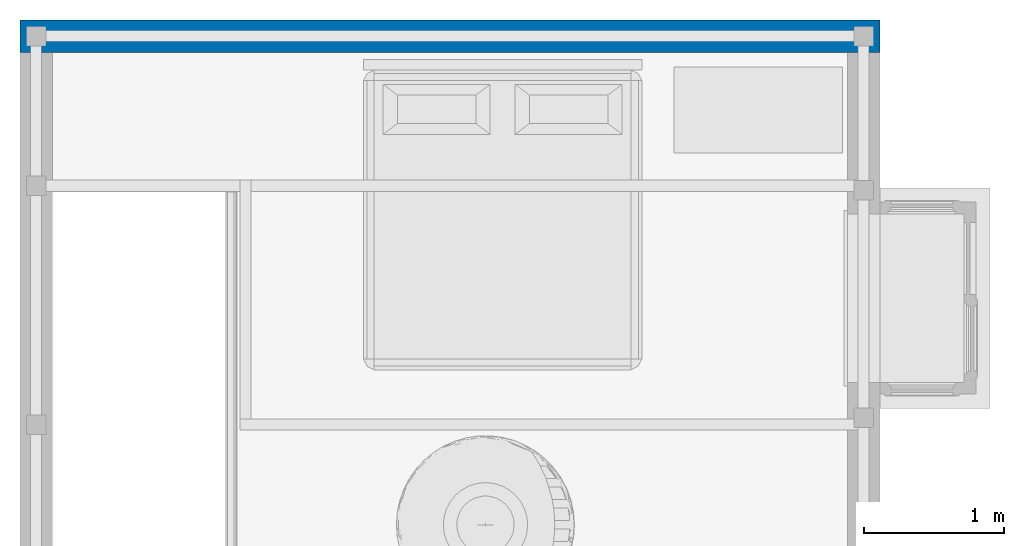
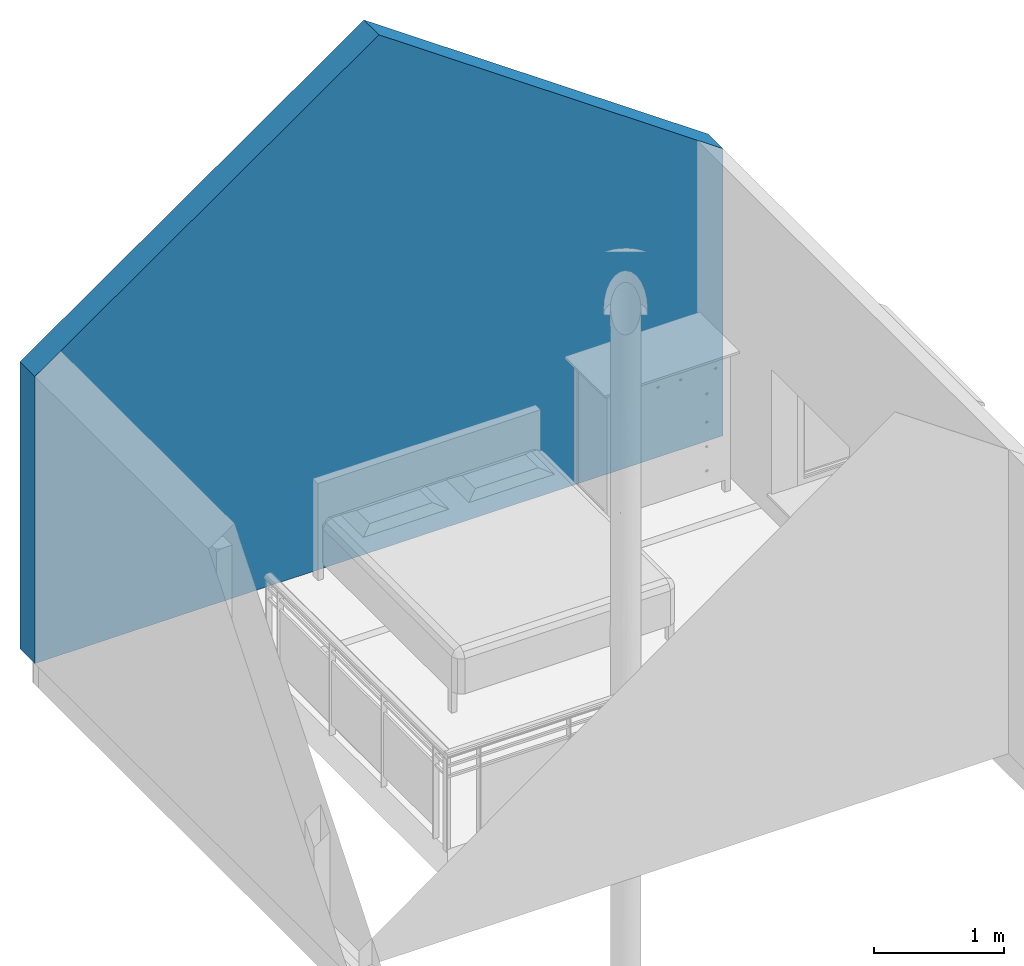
# One storey, part 2 of 5: 1 wall.
"""IFC2X3 building model written with IfcOpenShell, lengths in metres."""

from ifc_helpers import new_model, entity, si_unit, converted_unit, derived_unit, direction, frame, frame_2d, origin, place, context, subcontext, project, spatial, polyline, rectangle, extrude, clip, bounded_halfspace, material, layer, layer_set, layer_usage, type_object, element, save


model = new_model("IFC2X3")

# Units and contexts
model_context = context("Model", 3, precision=1e-05, world=origin(), true_north=direction((6.123233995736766e-17, 1.0)))
body_context = subcontext(model_context, "Body", "Model", "MODEL_VIEW")
ifc_project = project(units=[si_unit("LENGTHUNIT", "METRE"), si_unit("AREAUNIT", "SQUARE_METRE"), converted_unit("PLANEANGLEUNIT", "DEGREE", entity("IfcPlaneAngleMeasure", 0.017453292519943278), si_unit("PLANEANGLEUNIT", "RADIAN"), dimensions=[0, 0, 0, 0, 0, 0, 0]), derived_unit("THERMALTRANSMITTANCEUNIT", [(si_unit("MASSUNIT", "GRAM", prefix="KILO"), 1), (si_unit("THERMODYNAMICTEMPERATUREUNIT", "KELVIN"), -1), (si_unit("TIMEUNIT", "SECOND"), -3)])], contexts=[model_context])

# Site, building, storey
site_placement = place(None, origin())
site = spatial("IfcSite", under=ifc_project, at=site_placement, Name="Default", CompositionType="ELEMENT")
building_placement = place(site_placement, origin())
building = spatial("IfcBuilding", under=site, at=building_placement, CompositionType="ELEMENT")
storey_placement = place(building_placement, frame((0.0, 0.0, 3.0999999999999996)))
storey = spatial("IfcBuildingStorey", under=building, at=storey_placement, Name="1 - First Floor", CompositionType="ELEMENT", Elevation=3.0999999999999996)

# Wall
ifc_material_1 = material(Name="gypsum plaster")
ifc_layer_1 = layer(ifc_material_1, 0.025)
ifc_material_2 = material(Name="wood fiber")
ifc_layer_2 = layer(ifc_material_2, 0.02)
ifc_material_3 = material(Name="osb panel")
ifc_layer_3 = layer(ifc_material_3, 0.02)
ifc_layer_4 = layer(ifc_material_2, 0.02)
ifc_material_4 = material(Name="water proof and wind proof sheet")
ifc_layer_5 = layer(ifc_material_4, 0.005)
ifc_layer_6 = layer(ifc_material_3, 0.02)
ifc_material_5 = material(Name="mineral rock wool")
ifc_layer_7 = layer(ifc_material_5, 0.04)
ifc_material_6 = material(Name="air cavity")
ifc_layer_8 = layer(ifc_material_6, 0.05)
ifc_material_7 = material(Name="plaster board panel")
ifc_layer_9 = layer(ifc_material_7, 0.03)
ifc_layer_set = layer_set([ifc_layer_1, ifc_layer_2, ifc_layer_3, ifc_layer_4, ifc_layer_5, ifc_layer_6, ifc_layer_7, ifc_layer_8, ifc_layer_9], Name="Basic Wall:external wall 2")
ifc_layer_usage = layer_usage(ifc_layer_set, "AXIS2", "POSITIVE", -0.11500000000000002)
wall_type = type_object("IfcWallType", Name="Basic Wall:external wall 2", PredefinedType="STANDARD", material=ifc_layer_set)
wall_placement = place(storey_placement, frame((-2.5369240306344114, 3.6670517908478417, 0.0)))
element("IfcWallStandardCase", 1, at=wall_placement, inside=storey, type_object=wall_type, material=ifc_layer_usage, Name="Basic Wall:external wall 2", ObjectType="Basic Wall:external wall 2", context=body_context, shape_type="Clipping", body=[
    clip(clip(extrude(rectangle(XDim=6.1200000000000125, YDim=0.2299999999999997, at=frame_2d((3.0600000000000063, 0.0), x_axis=(-1.0, 0.0))), origin(), (0.0, 0.0, 1.0), 4.842635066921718), bounded_halfspace(frame((0.0, -0.1150000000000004, 2.7000000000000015), z_axis=(-0.5735764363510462, 0.0, 0.8191520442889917), x_axis=(0.0, -1.0, 0.0)), False, frame((0.0, -0.1150000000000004, 2.7000000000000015)), polyline([(0.0, 0.0), (0.22999999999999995, 0.0), (3.0600000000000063, 0.0), (3.0600000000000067, 0.23000000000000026), (0.0, 0.23000000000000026), (0.0, 0.0)]))), bounded_halfspace(frame((3.0600000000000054, -0.1150000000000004, 4.842635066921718), z_axis=(0.5735764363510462, 0.0, 0.8191520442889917), x_axis=(0.0, 1.0, 0.0)), False, frame((3.0600000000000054, -0.1150000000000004, 4.842635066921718)), polyline([(0.0, 0.0), (2.8300000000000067, 0.0), (3.060000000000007, 0.0), (3.060000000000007, 0.23000000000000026), (0.0, 0.23000000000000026), (0.0, 0.0)]))),
])

save(model, "model.ifc")
